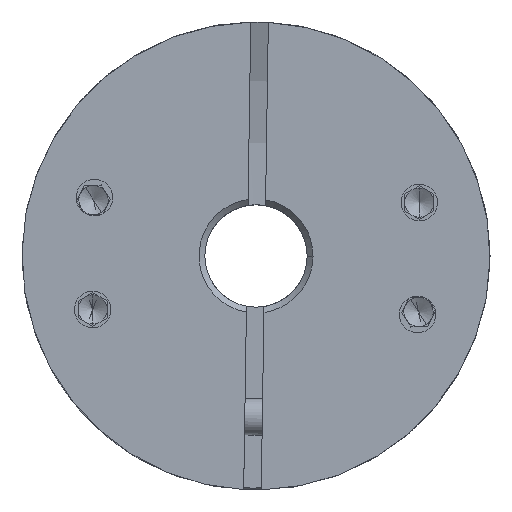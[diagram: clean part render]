
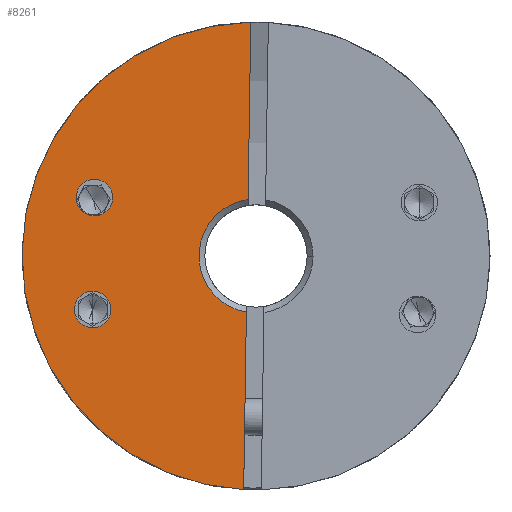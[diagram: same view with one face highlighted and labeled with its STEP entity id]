
A CAD part, front view. The second image highlights one B-rep face of the part: STEP entity #8261.
In plain terms, the highlighted planar face has unit normal (0, -1, 0).
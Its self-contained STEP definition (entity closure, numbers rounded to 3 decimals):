
#65 = CARTESIAN_POINT ( 'NONE',  ( -71.479, -19.411, 4.013 ) ) ;
#263 = AXIS2_PLACEMENT_3D ( 'NONE', #19860, #18057, #1298 ) ;
#524 = AXIS2_PLACEMENT_3D ( 'NONE', #21589, #14265, #21744 ) ;
#775 = EDGE_CURVE ( 'NONE', #10435, #9259, #5984, .T. ) ;
#792 = CARTESIAN_POINT ( 'NONE',  ( -70.229, -19.411, 3.994 ) ) ;
#1042 = ORIENTED_EDGE ( 'NONE', *, *, #5701, .T. ) ;
#1298 = DIRECTION ( 'NONE',  ( 1., 0., -0.015 ) ) ;
#2014 = EDGE_CURVE ( 'NONE', #13876, #11743, #17082, .T. ) ;
#2366 = DIRECTION ( 'NONE',  ( 0., 1., 0. ) ) ;
#2630 = DIRECTION ( 'NONE',  ( 1., 0., -0.015 ) ) ;
#2652 = DIRECTION ( 'NONE',  ( 1., 0., -0.015 ) ) ;
#2691 = EDGE_CURVE ( 'NONE', #9586, #11743, #5891, .T. ) ;
#3376 = EDGE_LOOP ( 'NONE', ( #10184, #18567 ) ) ;
#3446 = CARTESIAN_POINT ( 'NONE',  ( -70.229, -19.411, 3.994 ) ) ;
#3924 = CARTESIAN_POINT ( 'NONE',  ( -59.687, -19.411, 6.008 ) ) ;
#4082 = AXIS2_PLACEMENT_3D ( 'NONE', #19138, #2366, #15467 ) ;
#4086 = CIRCLE ( 'NONE', #18666, 16. ) ;
#5230 = EDGE_CURVE ( 'NONE', #11763, #14417, #20414, .T. ) ;
#5616 = DIRECTION ( 'NONE',  ( -0.015, 0., -1. ) ) ;
#5701 = EDGE_CURVE ( 'NONE', #14417, #11763, #22975, .T. ) ;
#5891 = CIRCLE ( 'NONE', #263, 16. ) ;
#5921 = CARTESIAN_POINT ( 'NONE',  ( -69.095, -19.411, -3.675 ) ) ;
#5984 = CIRCLE ( 'NONE', #17423, 1.25 ) ;
#6599 = ORIENTED_EDGE ( 'NONE', *, *, #5230, .T. ) ;
#7330 = CARTESIAN_POINT ( 'NONE',  ( -59.535, -19.411, 15.996 ) ) ;
#7416 = VECTOR ( 'NONE', #5616, 1000. ) ;
#7738 = AXIS2_PLACEMENT_3D ( 'NONE', #3446, #18644, #22292 ) ;
#7961 = AXIS2_PLACEMENT_3D ( 'NONE', #15814, #13928, #17991 ) ;
#8261 = ADVANCED_FACE ( 'NONE', ( #15179, #16609, #18052 ), #8878, .T. ) ;
#8392 = CIRCLE ( 'NONE', #524, 3.9 ) ;
#8578 = EDGE_CURVE ( 'NONE', #13876, #18116, #8392, .T. ) ;
#8878 = PLANE ( 'NONE',  #8972 ) ;
#8972 = AXIS2_PLACEMENT_3D ( 'NONE', #10486, #17290, #19497 ) ;
#9259 = VERTEX_POINT ( 'NONE', #23191 ) ;
#9586 = VERTEX_POINT ( 'NONE', #14149 ) ;
#10184 = ORIENTED_EDGE ( 'NONE', *, *, #775, .T. ) ;
#10435 = VERTEX_POINT ( 'NONE', #65 ) ;
#10486 = CARTESIAN_POINT ( 'NONE',  ( -59.178, -19.411, 0. ) ) ;
#10761 = DIRECTION ( 'NONE',  ( -0.015, 0., -1. ) ) ;
#11743 = VERTEX_POINT ( 'NONE', #13319 ) ;
#11763 = VERTEX_POINT ( 'NONE', #22600 ) ;
#12128 = VECTOR ( 'NONE', #10761, 1000. ) ;
#12335 = EDGE_LOOP ( 'NONE', ( #6599, #1042 ) ) ;
#13319 = CARTESIAN_POINT ( 'NONE',  ( -60.021, -19.411, -15.978 ) ) ;
#13464 = EDGE_CURVE ( 'NONE', #22578, #9586, #4086, .T. ) ;
#13874 = DIRECTION ( 'NONE',  ( 0., 1., 0. ) ) ;
#13876 = VERTEX_POINT ( 'NONE', #17093 ) ;
#13928 = DIRECTION ( 'NONE',  ( 0., 1., 0. ) ) ;
#14149 = CARTESIAN_POINT ( 'NONE',  ( -75.176, -19.411, 0.243 ) ) ;
#14265 = DIRECTION ( 'NONE',  ( 0., 1., 0. ) ) ;
#14417 = VERTEX_POINT ( 'NONE', #5921 ) ;
#15030 = ORIENTED_EDGE ( 'NONE', *, *, #13464, .T. ) ;
#15179 = FACE_OUTER_BOUND ( 'NONE', #17302, .T. ) ;
#15467 = DIRECTION ( 'NONE',  ( 1., 0., -0.015 ) ) ;
#15814 = CARTESIAN_POINT ( 'NONE',  ( -70.345, -19.411, -3.656 ) ) ;
#15882 = ORIENTED_EDGE ( 'NONE', *, *, #8578, .T. ) ;
#16609 = FACE_BOUND ( 'NONE', #3376, .T. ) ;
#16940 = EDGE_CURVE ( 'NONE', #9259, #10435, #23795, .T. ) ;
#17082 = LINE ( 'NONE', #20036, #12128 ) ;
#17093 = CARTESIAN_POINT ( 'NONE',  ( -59.837, -19.411, -3.844 ) ) ;
#17115 = EDGE_CURVE ( 'NONE', #22578, #18116, #22051, .T. ) ;
#17290 = DIRECTION ( 'NONE',  ( 0., -1., 0. ) ) ;
#17302 = EDGE_LOOP ( 'NONE', ( #23208, #15882, #22708, #15030, #22448 ) ) ;
#17423 = AXIS2_PLACEMENT_3D ( 'NONE', #792, #13874, #2652 ) ;
#17991 = DIRECTION ( 'NONE',  ( 1., 0., -0.015 ) ) ;
#18052 = FACE_BOUND ( 'NONE', #12335, .T. ) ;
#18057 = DIRECTION ( 'NONE',  ( 0., -1., 0. ) ) ;
#18116 = VERTEX_POINT ( 'NONE', #19697 ) ;
#18567 = ORIENTED_EDGE ( 'NONE', *, *, #16940, .T. ) ;
#18644 = DIRECTION ( 'NONE',  ( 0., 1., 0. ) ) ;
#18666 = AXIS2_PLACEMENT_3D ( 'NONE', #21584, #19796, #2630 ) ;
#19138 = CARTESIAN_POINT ( 'NONE',  ( -70.345, -19.411, -3.656 ) ) ;
#19497 = DIRECTION ( 'NONE',  ( 1., 0., -0.015 ) ) ;
#19697 = CARTESIAN_POINT ( 'NONE',  ( -59.72, -19.411, 3.862 ) ) ;
#19796 = DIRECTION ( 'NONE',  ( 0., -1., 0. ) ) ;
#19860 = CARTESIAN_POINT ( 'NONE',  ( -59.178, -19.411, 0. ) ) ;
#20036 = CARTESIAN_POINT ( 'NONE',  ( -59.687, -19.411, 6.008 ) ) ;
#20414 = CIRCLE ( 'NONE', #7961, 1.25 ) ;
#21584 = CARTESIAN_POINT ( 'NONE',  ( -59.178, -19.411, 0. ) ) ;
#21589 = CARTESIAN_POINT ( 'NONE',  ( -59.178, -19.411, 0. ) ) ;
#21744 = DIRECTION ( 'NONE',  ( 1., 0., -0.015 ) ) ;
#22051 = LINE ( 'NONE', #3924, #7416 ) ;
#22292 = DIRECTION ( 'NONE',  ( 1., 0., -0.015 ) ) ;
#22448 = ORIENTED_EDGE ( 'NONE', *, *, #2691, .T. ) ;
#22578 = VERTEX_POINT ( 'NONE', #7330 ) ;
#22600 = CARTESIAN_POINT ( 'NONE',  ( -71.595, -19.411, -3.637 ) ) ;
#22708 = ORIENTED_EDGE ( 'NONE', *, *, #17115, .F. ) ;
#22975 = CIRCLE ( 'NONE', #4082, 1.25 ) ;
#23191 = CARTESIAN_POINT ( 'NONE',  ( -68.979, -19.411, 3.975 ) ) ;
#23208 = ORIENTED_EDGE ( 'NONE', *, *, #2014, .F. ) ;
#23795 = CIRCLE ( 'NONE', #7738, 1.25 ) ;
